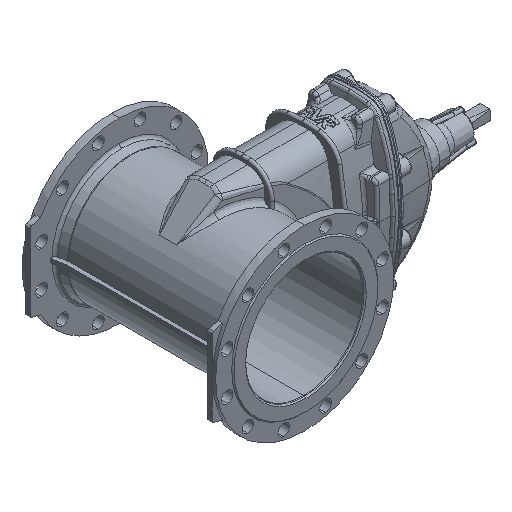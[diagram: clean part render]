
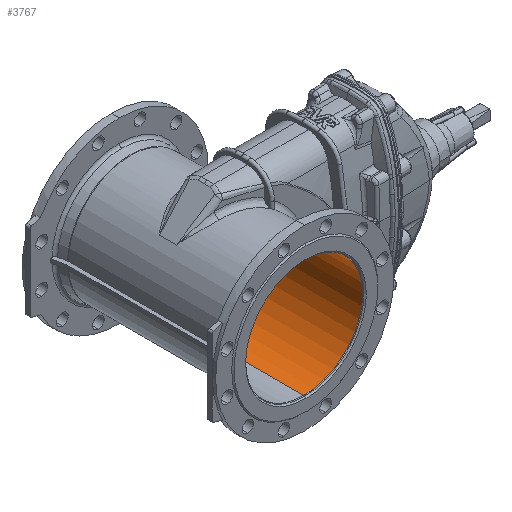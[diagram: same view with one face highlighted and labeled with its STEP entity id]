
A CAD part, isometric view. The second image highlights one B-rep face of the part: STEP entity #3767.
In plain terms, the highlighted cylindrical face has radius 150 mm (diameter 300 mm), a partial arc.
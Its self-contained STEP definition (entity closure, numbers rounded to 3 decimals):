
#1001 = CARTESIAN_POINT ( 'NONE',  ( -391.625, 283.728, -197.149 ) ) ;
#1492 = DIRECTION ( 'NONE',  ( 0., -1., 0. ) ) ;
#3612 = VERTEX_POINT ( 'NONE', #5787 ) ;
#3767 = ADVANCED_FACE ( 'NONE', ( #11018 ), #38255, .F. ) ;
#5211 = CARTESIAN_POINT ( 'NONE',  ( -391.625, -211.029, -197.149 ) ) ;
#5787 = CARTESIAN_POINT ( 'NONE',  ( -391.625, 278.485, -197.149 ) ) ;
#7951 = CARTESIAN_POINT ( 'NONE',  ( -391.625, 283.728, -47.149 ) ) ;
#8306 = LINE ( 'NONE', #31589, #12930 ) ;
#9225 = ORIENTED_EDGE ( 'NONE', *, *, #28634, .T. ) ;
#9470 = EDGE_LOOP ( 'NONE', ( #40392, #34273, #9225, #40115 ) ) ;
#11018 = FACE_OUTER_BOUND ( 'NONE', #9470, .T. ) ;
#11104 = DIRECTION ( 'NONE',  ( 0., -1., 0. ) ) ;
#12323 = AXIS2_PLACEMENT_3D ( 'NONE', #7951, #21333, #14299 ) ;
#12545 = DIRECTION ( 'NONE',  ( 0., -1., 0. ) ) ;
#12930 = VECTOR ( 'NONE', #1492, 1000. ) ;
#14299 = DIRECTION ( 'NONE',  ( 0., 0., -1. ) ) ;
#15325 = VERTEX_POINT ( 'NONE', #5211 ) ;
#20724 = EDGE_CURVE ( 'NONE', #15325, #29909, #41501, .T. ) ;
#21333 = DIRECTION ( 'NONE',  ( 0., -1., 0. ) ) ;
#21820 = CARTESIAN_POINT ( 'NONE',  ( -391.625, 278.485, -47.149 ) ) ;
#25608 = EDGE_CURVE ( 'NONE', #29601, #29909, #8306, .T. ) ;
#25937 = DIRECTION ( 'NONE',  ( 0., 0., -1. ) ) ;
#26749 = CARTESIAN_POINT ( 'NONE',  ( -391.625, 278.485, 102.851 ) ) ;
#27809 = LINE ( 'NONE', #1001, #35417 ) ;
#28616 = CIRCLE ( 'NONE', #41938, 150. ) ;
#28634 = EDGE_CURVE ( 'NONE', #3612, #15325, #27809, .T. ) ;
#29601 = VERTEX_POINT ( 'NONE', #26749 ) ;
#29603 = AXIS2_PLACEMENT_3D ( 'NONE', #33411, #12545, #25937 ) ;
#29909 = VERTEX_POINT ( 'NONE', #33939 ) ;
#31589 = CARTESIAN_POINT ( 'NONE',  ( -391.625, 283.728, 102.851 ) ) ;
#33411 = CARTESIAN_POINT ( 'NONE',  ( -391.625, -211.029, -47.149 ) ) ;
#33939 = CARTESIAN_POINT ( 'NONE',  ( -391.625, -211.029, 102.851 ) ) ;
#33947 = EDGE_CURVE ( 'NONE', #29601, #3612, #28616, .T. ) ;
#34273 = ORIENTED_EDGE ( 'NONE', *, *, #33947, .T. ) ;
#35417 = VECTOR ( 'NONE', #11104, 1000. ) ;
#35461 = DIRECTION ( 'NONE',  ( 0., 1., 0. ) ) ;
#38255 = CYLINDRICAL_SURFACE ( 'NONE', #12323, 150. ) ;
#40115 = ORIENTED_EDGE ( 'NONE', *, *, #20724, .T. ) ;
#40392 = ORIENTED_EDGE ( 'NONE', *, *, #25608, .F. ) ;
#41172 = DIRECTION ( 'NONE',  ( 0., 0., -1. ) ) ;
#41501 = CIRCLE ( 'NONE', #29603, 150. ) ;
#41938 = AXIS2_PLACEMENT_3D ( 'NONE', #21820, #35461, #41172 ) ;
